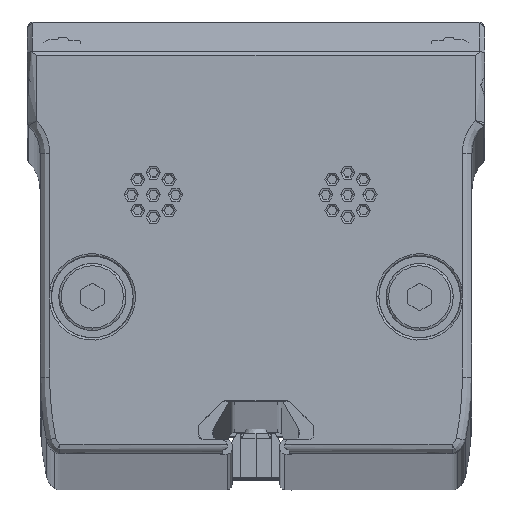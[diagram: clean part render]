
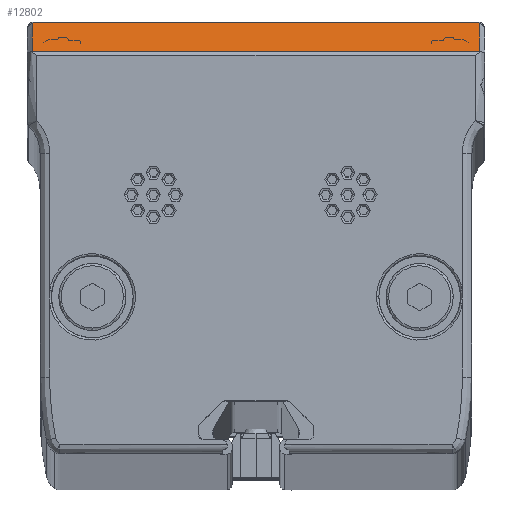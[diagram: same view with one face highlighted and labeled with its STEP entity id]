
A CAD part, top view. The second image highlights one B-rep face of the part: STEP entity #12802.
In plain terms, the highlighted planar face has unit normal (0, 0.858, 0.514).
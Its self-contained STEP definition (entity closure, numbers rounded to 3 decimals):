
#108 = VERTEX_POINT ( 'NONE', #20384 ) ;
#658 = ORIENTED_EDGE ( 'NONE', *, *, #14087, .T. ) ;
#954 = ORIENTED_EDGE ( 'NONE', *, *, #9358, .T. ) ;
#1048 = ORIENTED_EDGE ( 'NONE', *, *, #4776, .T. ) ;
#1909 = CARTESIAN_POINT ( 'NONE',  ( -23.215, 22.429, 2129.914 ) ) ;
#2064 = CARTESIAN_POINT ( 'NONE',  ( 23.315, 22.329, 2130.08 ) ) ;
#2474 = FACE_OUTER_BOUND ( 'NONE', #16315, .T. ) ;
#2586 = EDGE_CURVE ( 'NONE', #108, #26979, #9662, .T. ) ;
#3585 = CARTESIAN_POINT ( 'NONE',  ( 23.215, 22.429, 2129.914 ) ) ;
#3789 = VERTEX_POINT ( 'NONE', #14927 ) ;
#3910 = LINE ( 'NONE', #13122, #24955 ) ;
#4429 = LINE ( 'NONE', #8638, #4828 ) ;
#4776 = EDGE_CURVE ( 'NONE', #22996, #6938, #7006, .T. ) ;
#4828 = VECTOR ( 'NONE', #24747, 1000. ) ;
#4897 = DIRECTION ( 'NONE',  ( 0., -0.857, -0.514 ) ) ;
#4918 = CARTESIAN_POINT ( 'NONE',  ( 23.315, 22.329, 2130.08 ) ) ;
#5858 = CARTESIAN_POINT ( 'NONE',  ( 23.215, 22.429, 2129.914 ) ) ;
#6033 = ORIENTED_EDGE ( 'NONE', *, *, #10784, .T. ) ;
#6209 = AXIS2_PLACEMENT_3D ( 'NONE', #25526, #4897, #7297 ) ;
#6286 = CARTESIAN_POINT ( 'NONE',  ( -23.315, 22.387, 2129.983 ) ) ;
#6658 =( BOUNDED_CURVE ( )  B_SPLINE_CURVE ( 3, ( #22402, #15358, #6286, #13690 ),
 .UNSPECIFIED., .F., .F. ) 
 B_SPLINE_CURVE_WITH_KNOTS ( ( 4, 4 ),
 ( 0., 1.571 ),
 .UNSPECIFIED. ) 
 CURVE ( )  GEOMETRIC_REPRESENTATION_ITEM ( )  RATIONAL_B_SPLINE_CURVE ( ( 1., 0.805, 0.805, 1. ) ) 
 REPRESENTATION_ITEM ( '' )  );
#6938 = VERTEX_POINT ( 'NONE', #11619 ) ;
#7006 =( BOUNDED_CURVE ( )  B_SPLINE_CURVE ( 3, ( #21683, #17169, #3585, #5858 ),
 .UNSPECIFIED., .F., .F. ) 
 B_SPLINE_CURVE_WITH_KNOTS ( ( 4, 4 ),
 ( 6.283, 6.283 ),
 .UNSPECIFIED. ) 
 CURVE ( )  GEOMETRIC_REPRESENTATION_ITEM ( )  RATIONAL_B_SPLINE_CURVE ( ( 1., 1., 1., 1. ) ) 
 REPRESENTATION_ITEM ( '' )  );
#7176 = CARTESIAN_POINT ( 'NONE',  ( 23.315, 22.387, 2129.983 ) ) ;
#7297 = DIRECTION ( 'NONE',  ( 0., 0.514, -0.857 ) ) ;
#8638 = CARTESIAN_POINT ( 'NONE',  ( 23.315, 19.287, 2135.15 ) ) ;
#8839 = CARTESIAN_POINT ( 'NONE',  ( 23.274, 22.429, 2129.914 ) ) ;
#9358 = EDGE_CURVE ( 'NONE', #21001, #22996, #27801, .T. ) ;
#9662 = LINE ( 'NONE', #9942, #21533 ) ;
#9942 = CARTESIAN_POINT ( 'NONE',  ( 23.82, 19.433, 2134.907 ) ) ;
#10784 = EDGE_CURVE ( 'NONE', #26979, #21001, #4429, .T. ) ;
#11619 = CARTESIAN_POINT ( 'NONE',  ( 23.215, 22.429, 2129.914 ) ) ;
#12802 = ADVANCED_FACE ( 'NONE', ( #2474 ), #14404, .F. ) ;
#13122 = CARTESIAN_POINT ( 'NONE',  ( -23.215, 22.429, 2129.914 ) ) ;
#13502 = VECTOR ( 'NONE', #28116, 1000. ) ;
#13690 = CARTESIAN_POINT ( 'NONE',  ( -23.315, 22.329, 2130.08 ) ) ;
#14087 = EDGE_CURVE ( 'NONE', #19832, #3789, #6658, .T. ) ;
#14381 = CARTESIAN_POINT ( 'NONE',  ( 23.215, 22.429, 2129.914 ) ) ;
#14404 = PLANE ( 'NONE',  #6209 ) ;
#14927 = CARTESIAN_POINT ( 'NONE',  ( -23.315, 22.329, 2130.08 ) ) ;
#15358 = CARTESIAN_POINT ( 'NONE',  ( -23.274, 22.429, 2129.914 ) ) ;
#16098 = ORIENTED_EDGE ( 'NONE', *, *, #17697, .T. ) ;
#16315 = EDGE_LOOP ( 'NONE', ( #21104, #6033, #954, #1048, #28473, #658, #16098 ) ) ;
#16405 = CARTESIAN_POINT ( 'NONE',  ( 23.215, 22.429, 2129.914 ) ) ;
#16469 = DIRECTION ( 'NONE',  ( 1., 0., 0. ) ) ;
#17169 = CARTESIAN_POINT ( 'NONE',  ( 23.215, 22.429, 2129.914 ) ) ;
#17697 = EDGE_CURVE ( 'NONE', #3789, #108, #19068, .T. ) ;
#19068 = LINE ( 'NONE', #28267, #13502 ) ;
#19832 = VERTEX_POINT ( 'NONE', #1909 ) ;
#20384 = CARTESIAN_POINT ( 'NONE',  ( -23.315, 19.433, 2134.907 ) ) ;
#21001 = VERTEX_POINT ( 'NONE', #4918 ) ;
#21104 = ORIENTED_EDGE ( 'NONE', *, *, #2586, .T. ) ;
#21533 = VECTOR ( 'NONE', #16469, 1000. ) ;
#21683 = CARTESIAN_POINT ( 'NONE',  ( 23.215, 22.429, 2129.914 ) ) ;
#22293 = DIRECTION ( 'NONE',  ( -1., 0., 0. ) ) ;
#22402 = CARTESIAN_POINT ( 'NONE',  ( -23.215, 22.429, 2129.914 ) ) ;
#22996 = VERTEX_POINT ( 'NONE', #14381 ) ;
#24747 = DIRECTION ( 'NONE',  ( 0., 0.514, -0.857 ) ) ;
#24955 = VECTOR ( 'NONE', #22293, 1000. ) ;
#25526 = CARTESIAN_POINT ( 'NONE',  ( 23.82, 19.287, 2135.15 ) ) ;
#26651 = CARTESIAN_POINT ( 'NONE',  ( 23.315, 19.433, 2134.907 ) ) ;
#26979 = VERTEX_POINT ( 'NONE', #26651 ) ;
#27801 =( BOUNDED_CURVE ( )  B_SPLINE_CURVE ( 3, ( #2064, #7176, #8839, #16405 ),
 .UNSPECIFIED., .F., .F. ) 
 B_SPLINE_CURVE_WITH_KNOTS ( ( 4, 4 ),
 ( 4.712, 6.283 ),
 .UNSPECIFIED. ) 
 CURVE ( )  GEOMETRIC_REPRESENTATION_ITEM ( )  RATIONAL_B_SPLINE_CURVE ( ( 1., 0.805, 0.805, 1. ) ) 
 REPRESENTATION_ITEM ( '' )  );
#28116 = DIRECTION ( 'NONE',  ( 0., -0.514, 0.857 ) ) ;
#28267 = CARTESIAN_POINT ( 'NONE',  ( -23.315, 19.287, 2135.15 ) ) ;
#28473 = ORIENTED_EDGE ( 'NONE', *, *, #29193, .T. ) ;
#29193 = EDGE_CURVE ( 'NONE', #6938, #19832, #3910, .T. ) ;
